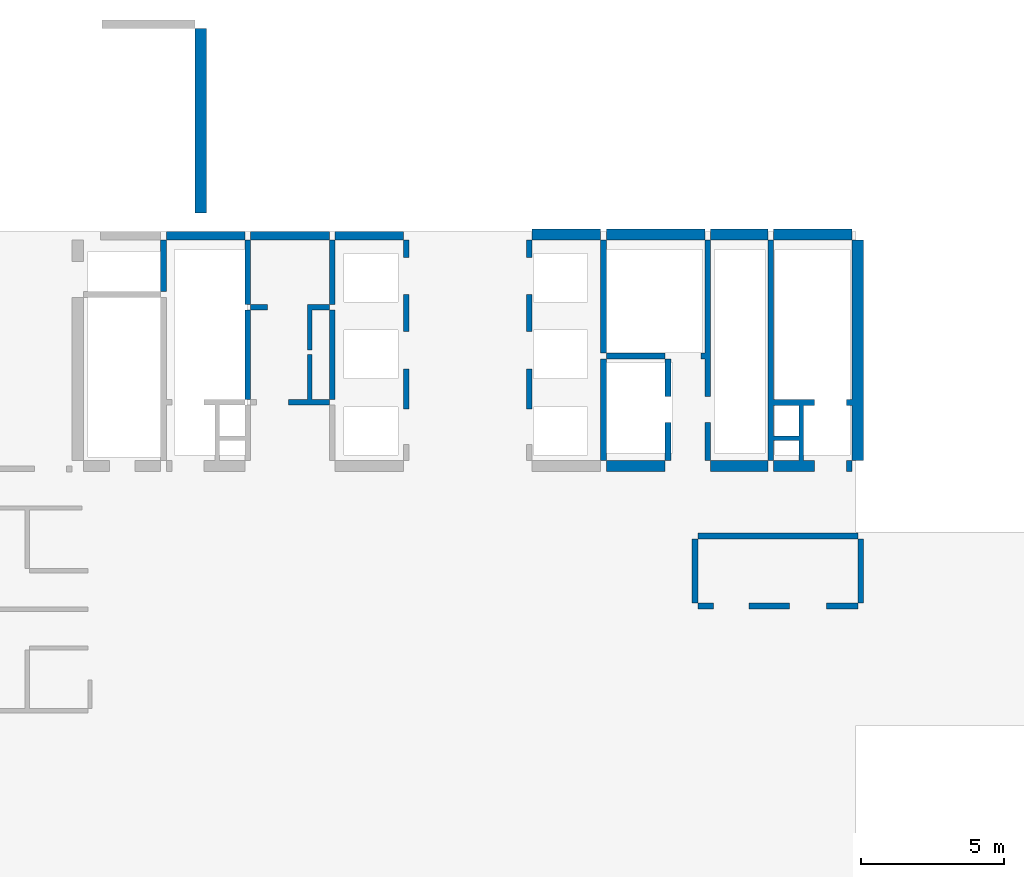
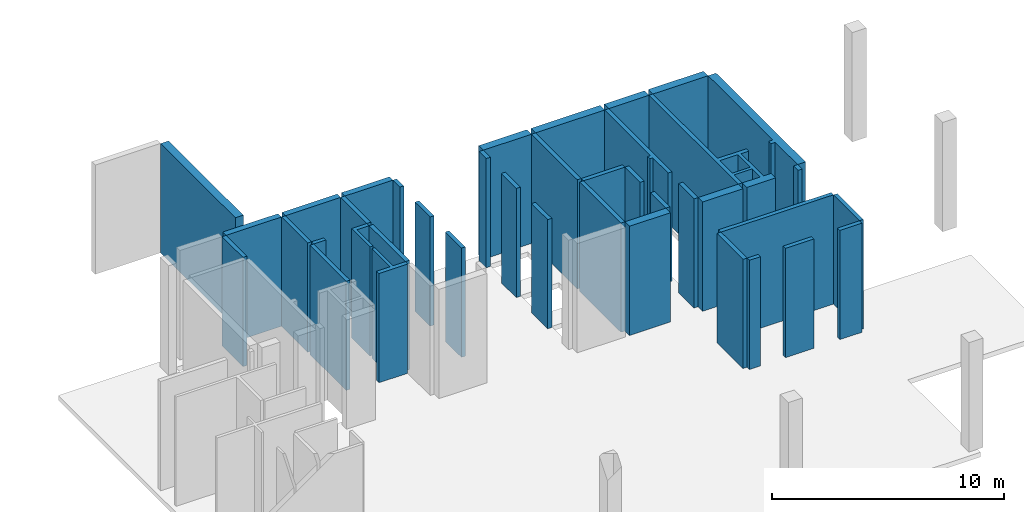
# One storey, part 2 of 2: 40 walls.
"""IFC4 building model written with IfcOpenShell, lengths in millimetres."""

from ifc_helpers import new_model, si_unit, origin, place, context, project, spatial, triangles, element, save


model = new_model("IFC4")

# Units and contexts
model_context = context("Model", 3, precision=0.001, world=origin())
ifc_project = project(units=[si_unit("LENGTHUNIT", "METRE", prefix="MILLI"), si_unit("AREAUNIT", "SQUARE_METRE"), si_unit("VOLUMEUNIT", "CUBIC_METRE")], contexts=[model_context])

# Site, building, storey
site_placement = place(None, origin())
site = spatial("IfcSite", under=ifc_project, at=site_placement, Name="Site", CompositionType="ELEMENT")
building_placement = place(site_placement, origin())
building = spatial("IfcBuilding", under=site, at=building_placement, Name="INNOCEAN", CompositionType="ELEMENT")
storey_placement = place(building_placement, origin())
storey = spatial("IfcBuildingStorey", under=building, at=storey_placement, Name="F01", CompositionType="ELEMENT", Elevation=0.0)

# Walls
wall_1_placement = place(storey_placement, origin())
element("IfcWall", 1, at=wall_1_placement, inside=storey, Name="F01_Walls_F01_014", context=model_context, shape_type="Tessellation", body=[
    triangles([(16226.2, 23222.2, 0.0), (16429.3, 23222.2, 0.0), (16429.3, 23222.2, 5750.0), (16226.2, 23222.2, 5750.0), (16226.2, 25025.8, 0.0), (16226.2, 25025.8, 5750.0), (16429.3, 25025.8, 0.0), (16429.3, 25025.8, 5750.0)], [[1, 2, 3], [1, 3, 4], [5, 1, 4], [5, 4, 6], [7, 5, 6], [7, 6, 8], [2, 7, 8], [2, 8, 3], [5, 2, 1], [5, 7, 2], [3, 6, 4], [8, 6, 3]], closed=True),
])
wall_2_placement = place(storey_placement, origin())
element("IfcWall", 2, at=wall_2_placement, inside=storey, Name="F01_Walls_F01_023", context=model_context, shape_type="Tessellation", body=[
    triangles([(22128.5, 19246.7, 0.0), (22128.5, 19449.9, 0.0), (22128.5, 19449.9, 5750.0), (22128.5, 19246.7, 5750.0), (20694.2, 19246.7, 0.0), (20694.2, 19246.7, 5750.0), (20694.2, 19449.9, 0.0), (20694.2, 19449.9, 5750.0), (21366.9, 19449.9, 0.0), (21366.9, 19449.9, 5750.0), (21366.9, 21024.9, 0.0), (21366.9, 21024.9, 5750.0), (21519.3, 21024.9, 0.0), (21519.3, 21024.9, 5750.0), (21519.3, 19449.9, 0.0), (21519.3, 19449.9, 5750.0)], [[1, 2, 3], [1, 3, 4], [5, 1, 4], [5, 4, 6], [7, 5, 6], [7, 6, 8], [9, 7, 8], [9, 8, 10], [11, 9, 10], [11, 10, 12], [13, 11, 12], [13, 12, 14], [15, 13, 14], [15, 14, 16], [2, 15, 16], [2, 16, 3], [15, 2, 1], [9, 15, 1], [5, 9, 1], [7, 9, 5], [11, 13, 15], [11, 15, 9], [3, 16, 4], [16, 10, 4], [10, 6, 4], [10, 8, 6], [14, 12, 16], [16, 12, 10]], closed=True),
])
wall_3_placement = place(storey_placement, origin())
element("IfcWall", 3, at=wall_3_placement, inside=storey, Name="F01_Walls_F01_024", context=model_context, shape_type="Tessellation", body=[
    triangles([(24730.0, 19120.0, 0.0), (24730.0, 19120.0, 5750.0), (24730.0, 20515.0, 5750.0), (24730.0, 20515.0, 0.0), (24730.6, 20515.0, 5750.0), (24730.6, 20515.0, 0.0), (24730.6, 20516.8, 0.0), (24730.6, 20516.8, 5750.0), (24921.0, 20516.8, 0.0), (24921.0, 20516.8, 5750.0), (24921.0, 19119.7, 0.0), (24921.0, 19119.7, 5750.0), (24730.6, 19119.7, 0.0), (24730.6, 19119.7, 5750.0), (24730.6, 19120.0, 0.0), (24730.6, 19120.0, 5750.0)], [[1, 2, 3], [4, 1, 3], [4, 3, 5], [6, 4, 5], [7, 6, 5], [7, 5, 8], [9, 7, 8], [9, 8, 10], [11, 9, 10], [11, 10, 12], [13, 11, 12], [13, 12, 14], [15, 13, 14], [15, 14, 16], [15, 16, 2], [1, 15, 2], [15, 11, 13], [6, 9, 11], [6, 11, 15], [4, 15, 1], [4, 6, 15], [7, 9, 6], [12, 16, 14], [10, 5, 12], [12, 5, 16], [16, 3, 2], [5, 3, 16], [10, 8, 5]], closed=True),
])
wall_4_placement = place(storey_placement, origin())
element("IfcWall", 4, at=wall_4_placement, inside=storey, Name="F01_Walls_F01_025", context=model_context, shape_type="Tessellation", body=[
    triangles([(19374.1, 22574.4, 0.0), (19374.1, 22574.4, 5750.0), (19374.1, 19449.9, 5750.0), (19374.1, 19449.9, 0.0), (19183.7, 19449.9, 0.0), (19183.7, 19449.9, 5750.0), (19183.7, 22574.4, 5750.0), (19183.7, 22574.4, 0.0)], [[1, 2, 3], [4, 1, 3], [5, 4, 3], [5, 3, 6], [5, 6, 7], [8, 5, 7], [1, 8, 7], [1, 7, 2], [1, 4, 5], [8, 1, 5], [3, 2, 6], [2, 7, 6]], closed=True),
])
wall_5_placement = place(storey_placement, origin())
element("IfcWall", 5, at=wall_5_placement, inside=storey, Name="F01_Walls_F01_026", context=model_context, shape_type="Tessellation", body=[
    triangles([(22331.6, 22574.4, 0.0), (22331.6, 22574.4, 5750.0), (22331.6, 19449.9, 5750.0), (22331.6, 19449.9, 0.0), (22128.5, 19449.9, 0.0), (22128.5, 19449.9, 5750.0), (22128.5, 22574.4, 5750.0), (22128.5, 22574.4, 0.0)], [[1, 2, 3], [4, 1, 3], [5, 4, 3], [5, 3, 6], [5, 6, 7], [8, 5, 7], [1, 8, 7], [1, 7, 2], [1, 4, 5], [8, 1, 5], [3, 2, 6], [2, 7, 6]], closed=True),
])
wall_6_placement = place(storey_placement, origin())
element("IfcWall", 6, at=wall_6_placement, inside=storey, Name="F01_Walls_F01_027", context=model_context, shape_type="Tessellation", body=[
    triangles([(21519.3, 22574.4, 0.0), (22128.5, 22574.4, 0.0), (22128.5, 22574.4, 5750.0), (21519.3, 22574.4, 5750.0), (21519.3, 21177.3, 0.0), (21519.3, 21177.3, 5750.0), (21366.9, 21177.3, 0.0), (21366.9, 21177.3, 5750.0), (21366.9, 22574.4, 0.0), (21366.9, 22574.4, 5750.0), (21366.9, 22765.0, 0.0), (21366.9, 22765.0, 5750.0), (22128.5, 22765.0, 0.0), (22128.5, 22765.0, 5750.0)], [[1, 2, 3], [1, 3, 4], [5, 1, 4], [5, 4, 6], [7, 5, 6], [7, 6, 8], [9, 7, 8], [9, 8, 10], [11, 9, 10], [11, 10, 12], [13, 11, 12], [13, 12, 14], [2, 13, 14], [2, 14, 3], [1, 13, 2], [9, 1, 5], [9, 5, 7], [11, 1, 9], [11, 13, 1], [14, 4, 3], [4, 10, 6], [6, 10, 8], [4, 12, 10], [14, 12, 4]], closed=True),
])
wall_7_placement = place(storey_placement, origin())
element("IfcWall", 7, at=wall_7_placement, inside=storey, Name="F01_Walls_F01_028", context=model_context, shape_type="Tessellation", body=[
    triangles([(19970.7, 22574.4, 0.0), (19970.7, 22765.0, 0.0), (19970.7, 22765.0, 5750.0), (19970.7, 22574.4, 5750.0), (19374.1, 22574.4, 0.0), (19374.1, 22574.4, 5750.0), (19374.1, 22765.0, 0.0), (19374.1, 22765.0, 5750.0)], [[1, 2, 3], [1, 3, 4], [5, 1, 4], [5, 4, 6], [7, 5, 6], [7, 6, 8], [2, 7, 8], [2, 8, 3], [7, 2, 1], [7, 1, 5], [3, 8, 4], [4, 8, 6]], closed=True),
])
wall_8_placement = place(storey_placement, origin())
element("IfcWall", 8, at=wall_8_placement, inside=storey, Name="F01_Walls_F01_029", context=model_context, shape_type="Tessellation", body=[
    triangles([(19374.1, 22765.0, 0.0), (19374.1, 25025.8, 0.0), (19374.1, 25025.8, 5750.0), (19374.1, 22765.0, 5750.0), (19183.7, 22765.0, 0.0), (19183.7, 22765.0, 5750.0), (19183.7, 25025.8, 0.0), (19183.7, 25025.8, 5750.0)], [[1, 2, 3], [1, 3, 4], [5, 1, 4], [5, 4, 6], [7, 5, 6], [7, 6, 8], [2, 7, 8], [2, 8, 3], [7, 2, 1], [7, 1, 5], [3, 8, 4], [4, 8, 6]], closed=True),
])
wall_9_placement = place(storey_placement, origin())
element("IfcWall", 9, at=wall_9_placement, inside=storey, Name="F01_Walls_F01_030", context=model_context, shape_type="Tessellation", body=[
    triangles([(22331.6, 22765.0, 0.0), (22331.6, 25025.8, 0.0), (22331.6, 25025.8, 5750.0), (22331.6, 22765.0, 5750.0), (22128.5, 22765.0, 0.0), (22128.5, 22765.0, 5750.0), (22128.5, 25025.8, 0.0), (22128.5, 25025.8, 5750.0)], [[1, 2, 3], [1, 3, 4], [5, 1, 4], [5, 4, 6], [7, 5, 6], [7, 6, 8], [2, 7, 8], [2, 8, 3], [7, 2, 1], [7, 1, 5], [3, 8, 4], [4, 8, 6]], closed=True),
])
wall_10_placement = place(storey_placement, origin())
element("IfcWall", 10, at=wall_10_placement, inside=storey, Name="F01_Walls_F01_031", context=model_context, shape_type="Tessellation", body=[
    triangles([(19183.7, 25025.8, 0.0), (19183.7, 25317.9, 0.0), (19183.7, 25317.9, 5750.0), (19183.7, 25025.8, 5750.0), (16429.3, 25025.8, 0.0), (16429.3, 25025.8, 5750.0), (16429.3, 25317.9, 0.0), (16429.3, 25317.9, 5750.0)], [[1, 2, 3], [1, 3, 4], [5, 1, 4], [5, 4, 6], [7, 5, 6], [7, 6, 8], [2, 7, 8], [2, 8, 3], [5, 2, 1], [7, 2, 5], [3, 6, 4], [3, 8, 6]], closed=True),
])
wall_11_placement = place(storey_placement, origin())
element("IfcWall", 11, at=wall_11_placement, inside=storey, Name="F01_Walls_F01_032", context=model_context, shape_type="Tessellation", body=[
    triangles([(22128.5, 25025.8, 0.0), (22128.5, 25317.9, 0.0), (22128.5, 25317.9, 5750.0), (22128.5, 25025.8, 5750.0), (19374.1, 25025.8, 0.0), (19374.1, 25025.8, 5750.0), (19374.1, 25317.9, 0.0), (19374.1, 25317.9, 5750.0)], [[1, 2, 3], [1, 3, 4], [5, 1, 4], [5, 4, 6], [7, 5, 6], [7, 6, 8], [2, 7, 8], [2, 8, 3], [5, 2, 1], [7, 2, 5], [3, 6, 4], [3, 8, 6]], closed=True),
])
wall_12_placement = place(storey_placement, origin())
element("IfcWall", 12, at=wall_12_placement, inside=storey, Name="F01_Walls_F01_033", context=model_context, shape_type="Tessellation", body=[
    triangles([(24730.6, 25317.9, 0.0), (22331.6, 25317.9, 0.0), (22331.6, 25317.9, 5750.0), (24730.6, 25317.9, 5750.0), (24730.6, 25025.8, 0.0), (24730.6, 25025.8, 5750.0), (22331.6, 25025.8, 0.0), (22331.6, 25025.8, 5750.0)], [[1, 2, 3], [1, 3, 4], [5, 1, 4], [5, 4, 6], [7, 5, 6], [7, 6, 8], [2, 7, 8], [2, 8, 3], [7, 1, 5], [2, 1, 7], [4, 8, 6], [4, 3, 8]], closed=True),
])
wall_13_placement = place(storey_placement, origin())
element("IfcWall", 13, at=wall_13_placement, inside=storey, Name="F01_Walls_F01_034", context=model_context, shape_type="Tessellation", body=[
    triangles([(17825.5, 25965.7, 0.0), (17825.5, 32417.9, 0.0), (17825.5, 32417.9, 5750.0), (17825.5, 25965.7, 5750.0), (17432.0, 25965.7, 5750.0), (17432.0, 25965.7, 0.0), (17432.0, 32417.9, 0.0), (17432.0, 32417.9, 5750.0)], [[1, 2, 3], [1, 3, 4], [1, 4, 5], [6, 1, 5], [7, 6, 5], [7, 5, 8], [7, 8, 3], [2, 7, 3], [7, 2, 1], [7, 1, 6], [3, 8, 4], [4, 8, 5]], closed=True),
])
wall_14_placement = place(storey_placement, origin())
element("IfcWall", 14, at=wall_14_placement, inside=storey, Name="F01_Walls_F01_035", context=model_context, shape_type="Tessellation", body=[
    triangles([(35570.7, 12121.3, 0.0), (35570.7, 12324.5, 0.0), (35570.7, 12324.5, 5750.0), (35570.7, 12121.3, 5750.0), (35024.8, 12121.3, 0.0), (35024.8, 12121.3, 5750.0), (35024.8, 12324.5, 0.0), (35024.8, 12324.5, 5750.0)], [[1, 2, 3], [1, 3, 4], [5, 1, 4], [5, 4, 6], [7, 5, 6], [7, 6, 8], [2, 7, 8], [2, 8, 3], [7, 2, 1], [7, 1, 5], [3, 8, 4], [4, 8, 6]], closed=True),
])
wall_15_placement = place(storey_placement, origin())
element("IfcWall", 15, at=wall_15_placement, inside=storey, Name="F01_Walls_F01_036", context=model_context, shape_type="Tessellation", body=[
    triangles([(35024.8, 14572.6, 0.0), (34821.8, 14572.6, 0.0), (34821.8, 14572.6, 5750.0), (35024.8, 14572.6, 5750.0), (35024.8, 12324.5, 0.0), (35024.8, 12324.5, 5750.0), (34821.8, 12324.5, 0.0), (34821.8, 12324.5, 5750.0)], [[1, 2, 3], [1, 3, 4], [5, 1, 4], [5, 4, 6], [7, 5, 6], [7, 6, 8], [2, 7, 8], [2, 8, 3], [2, 1, 5], [2, 5, 7], [4, 3, 6], [6, 3, 8]], closed=True),
])
wall_16_placement = place(storey_placement, origin())
element("IfcWall", 16, at=wall_16_placement, inside=storey, Name="F01_Walls_F01_038", context=model_context, shape_type="Tessellation", body=[
    triangles([(33869.8, 16922.4, 0.0), (33869.8, 17316.1, 0.0), (33869.8, 17316.1, 5750.0), (33869.8, 16922.4, 5750.0), (31826.2, 16922.4, 0.0), (31826.2, 16922.4, 5750.0), (31826.2, 17316.1, 0.0), (31826.2, 17316.1, 5750.0)], [[1, 2, 3], [1, 3, 4], [5, 1, 4], [5, 4, 6], [7, 5, 6], [7, 6, 8], [2, 7, 8], [2, 8, 3], [7, 2, 1], [7, 1, 5], [3, 8, 4], [4, 8, 6]], closed=True),
])
wall_17_placement = place(storey_placement, origin())
element("IfcWall", 17, at=wall_17_placement, inside=storey, Name="F01_Walls_F01_041", context=model_context, shape_type="Tessellation", body=[
    triangles([(34072.9, 18649.7, 0.0), (34072.9, 18649.7, 5750.0), (34072.9, 17316.1, 5750.0), (34072.9, 17316.1, 0.0), (33869.8, 17316.1, 0.0), (33869.8, 17316.1, 5750.0), (33869.8, 18649.7, 5750.0), (33869.8, 18649.7, 0.0)], [[1, 2, 3], [4, 1, 3], [5, 4, 3], [5, 3, 6], [5, 6, 7], [8, 5, 7], [1, 8, 7], [1, 7, 2], [8, 1, 4], [8, 4, 5], [2, 7, 3], [3, 7, 6]], closed=True),
])
wall_18_placement = place(storey_placement, origin())
element("IfcWall", 18, at=wall_18_placement, inside=storey, Name="F01_Walls_F01_042", context=model_context, shape_type="Tessellation", body=[
    triangles([(35469.1, 18649.7, 0.0), (35469.1, 18649.7, 5750.0), (35469.1, 17316.1, 5750.0), (35469.1, 17316.1, 0.0), (35266.0, 17316.1, 0.0), (35266.0, 17316.1, 5750.0), (35266.0, 18649.7, 5750.0), (35266.0, 18649.7, 0.0)], [[1, 2, 3], [4, 1, 3], [5, 4, 3], [5, 3, 6], [5, 6, 7], [8, 5, 7], [1, 8, 7], [1, 7, 2], [8, 1, 4], [8, 4, 5], [2, 7, 3], [3, 7, 6]], closed=True),
])
wall_19_placement = place(storey_placement, origin())
element("IfcWall", 19, at=wall_19_placement, inside=storey, Name="F01_Walls_F01_043", context=model_context, shape_type="Tessellation", body=[
    triangles([(31826.2, 17316.1, 0.0), (31826.2, 20872.5, 0.0), (31826.2, 20872.5, 5750.0), (31826.2, 17316.1, 5750.0), (31623.1, 17316.1, 0.0), (31623.1, 17316.1, 5750.0), (31623.1, 20872.5, 0.0), (31623.1, 20872.5, 5750.0)], [[1, 2, 3], [1, 3, 4], [5, 1, 4], [5, 4, 6], [7, 5, 6], [7, 6, 8], [2, 7, 8], [2, 8, 3], [7, 2, 1], [7, 1, 5], [3, 8, 4], [4, 8, 6]], closed=True),
])
wall_20_placement = place(storey_placement, origin())
element("IfcWall", 20, at=wall_20_placement, inside=storey, Name="F01_Walls_F01_044", context=model_context, shape_type="Tessellation", body=[
    triangles([(29224.0, 19120.0, 0.0), (29225.0, 19120.0, 0.0), (29225.0, 19120.0, 5750.0), (29224.0, 19120.0, 5750.0), (29224.0, 19119.7, 0.0), (29224.0, 19119.7, 5750.0), (29020.9, 19119.7, 0.0), (29020.9, 19119.7, 5750.0), (29020.9, 19120.0, 0.0), (29020.9, 19120.0, 5750.0), (29020.0, 19120.0, 0.0), (29020.0, 19120.0, 5750.0), (29020.0, 20515.0, 5750.0), (29020.0, 20515.0, 0.0), (29020.9, 20515.0, 0.0), (29020.9, 20515.0, 5750.0), (29020.9, 20516.8, 0.0), (29020.9, 20516.8, 5750.0), (29224.0, 20516.8, 0.0), (29224.0, 20516.8, 5750.0), (29224.0, 20515.0, 0.0), (29224.0, 20515.0, 5750.0), (29225.0, 20515.0, 0.0), (29225.0, 20515.0, 5750.0)], [[1, 2, 3], [1, 3, 4], [5, 1, 4], [5, 4, 6], [7, 5, 6], [7, 6, 8], [9, 7, 8], [9, 8, 10], [11, 9, 10], [11, 10, 12], [11, 12, 13], [14, 11, 13], [15, 14, 13], [15, 13, 16], [17, 15, 16], [17, 16, 18], [19, 17, 18], [19, 18, 20], [21, 19, 20], [21, 20, 22], [23, 21, 22], [23, 22, 24], [23, 24, 3], [2, 23, 3], [9, 1, 5], [9, 5, 7], [21, 2, 1], [21, 23, 2], [21, 1, 9], [15, 21, 9], [14, 9, 11], [14, 15, 9], [17, 19, 21], [17, 21, 15], [4, 10, 6], [6, 10, 8], [3, 22, 4], [24, 22, 3], [4, 22, 10], [22, 16, 10], [10, 13, 12], [16, 13, 10], [20, 18, 22], [22, 18, 16]], closed=True),
])
wall_21_placement = place(storey_placement, origin())
element("IfcWall", 21, at=wall_21_placement, inside=storey, Name="F01_Walls_F01_045", context=model_context, shape_type="Tessellation", body=[
    triangles([(34072.9, 19551.5, 0.0), (34072.9, 20872.5, 0.0), (34072.9, 20872.5, 5750.0), (34072.9, 19551.5, 5750.0), (33869.8, 19551.5, 0.0), (33869.8, 19551.5, 5750.0), (33869.8, 20872.5, 0.0), (33869.8, 20872.5, 5750.0)], [[1, 2, 3], [1, 3, 4], [5, 1, 4], [5, 4, 6], [7, 5, 6], [7, 6, 8], [2, 7, 8], [2, 8, 3], [7, 2, 1], [7, 1, 5], [3, 8, 4], [4, 8, 6]], closed=True),
])
wall_22_placement = place(storey_placement, origin())
element("IfcWall", 22, at=wall_22_placement, inside=storey, Name="F01_Walls_F01_046", context=model_context, shape_type="Tessellation", body=[
    triangles([(35469.1, 21075.7, 0.0), (35469.1, 25025.8, 0.0), (35469.1, 25025.8, 5750.0), (35469.1, 21075.7, 5750.0), (35469.1, 20872.5, 0.0), (35469.1, 20872.5, 5750.0), (35469.1, 19551.5, 0.0), (35469.1, 19551.5, 5750.0), (35266.0, 19551.5, 0.0), (35266.0, 19551.5, 5750.0), (35266.0, 20872.5, 0.0), (35266.0, 20872.5, 5750.0), (35126.4, 20872.5, 0.0), (35126.4, 20872.5, 5750.0), (35126.4, 21075.7, 0.0), (35126.4, 21075.7, 5750.0), (35266.0, 21075.7, 0.0), (35266.0, 21075.7, 5750.0), (35266.0, 25025.8, 0.0), (35266.0, 25025.8, 5750.0)], [[1, 2, 3], [1, 3, 4], [5, 1, 4], [5, 4, 6], [7, 5, 6], [7, 6, 8], [9, 7, 8], [9, 8, 10], [11, 9, 10], [11, 10, 12], [13, 11, 12], [13, 12, 14], [15, 13, 14], [15, 14, 16], [17, 15, 16], [17, 16, 18], [19, 17, 18], [19, 18, 20], [2, 19, 20], [2, 20, 3], [11, 5, 7], [11, 7, 9], [1, 5, 11], [17, 1, 11], [15, 11, 13], [15, 17, 11], [19, 2, 1], [19, 1, 17], [6, 12, 8], [8, 12, 10], [6, 4, 12], [4, 18, 12], [12, 16, 14], [18, 16, 12], [3, 20, 4], [4, 20, 18]], closed=True),
])
wall_23_placement = place(storey_placement, origin())
element("IfcWall", 23, at=wall_23_placement, inside=storey, Name="F01_Walls_F01_047", context=model_context, shape_type="Tessellation", body=[
    triangles([(33869.8, 20872.5, 0.0), (33869.8, 21075.7, 0.0), (33869.8, 21075.7, 5750.0), (33869.8, 20872.5, 5750.0), (31826.2, 20872.5, 0.0), (31826.2, 20872.5, 5750.0), (31826.2, 21075.7, 0.0), (31826.2, 21075.7, 5750.0)], [[1, 2, 3], [1, 3, 4], [5, 1, 4], [5, 4, 6], [7, 5, 6], [7, 6, 8], [2, 7, 8], [2, 8, 3], [7, 2, 1], [7, 1, 5], [3, 8, 4], [4, 8, 6]], closed=True),
])
wall_24_placement = place(storey_placement, origin())
element("IfcWall", 24, at=wall_24_placement, inside=storey, Name="F01_Walls_F01_048", context=model_context, shape_type="Tessellation", body=[
    triangles([(24920.0, 21825.1, 0.0), (24921.0, 21825.1, 0.0), (24921.0, 21825.1, 5750.0), (24920.0, 21825.1, 5750.0), (24920.0, 21825.0, 5750.0), (24920.0, 21825.0, 0.0), (24730.0, 21825.0, 5750.0), (24730.0, 21825.0, 0.0), (24730.0, 23120.0, 0.0), (24730.0, 23120.0, 5750.0), (24730.6, 23120.0, 5750.0), (24730.6, 23120.0, 0.0), (24730.6, 23120.6, 5750.0), (24730.6, 23120.6, 0.0), (24921.0, 23120.6, 0.0), (24921.0, 23120.6, 5750.0)], [[1, 2, 3], [1, 3, 4], [1, 4, 5], [6, 1, 5], [6, 5, 7], [8, 6, 7], [9, 8, 7], [9, 7, 10], [9, 10, 11], [12, 9, 11], [12, 11, 13], [14, 12, 13], [15, 14, 13], [15, 13, 16], [2, 15, 16], [2, 16, 3], [8, 1, 6], [15, 2, 1], [12, 15, 1], [12, 1, 8], [9, 12, 8], [14, 15, 12], [4, 7, 5], [3, 16, 4], [16, 11, 4], [4, 11, 7], [11, 10, 7], [16, 13, 11]], closed=True),
])
wall_25_placement = place(storey_placement, origin())
element("IfcWall", 25, at=wall_25_placement, inside=storey, Name="F01_Walls_F01_049", context=model_context, shape_type="Tessellation", body=[
    triangles([(29225.0, 21825.0, 0.0), (29225.0, 23120.0, 0.0), (29225.0, 23120.0, 5750.0), (29225.0, 21825.0, 5750.0), (29020.0, 21825.0, 0.0), (29020.0, 21825.0, 5750.0), (29020.0, 23120.0, 0.0), (29020.0, 23120.0, 5750.0), (29020.9, 23120.0, 0.0), (29020.9, 23120.0, 5750.0), (29020.9, 23120.6, 5750.0), (29020.9, 23120.6, 0.0), (29224.0, 23120.6, 0.0), (29224.0, 23120.6, 5750.0), (29224.0, 23120.0, 5750.0), (29224.0, 23120.0, 0.0)], [[1, 2, 3], [1, 3, 4], [5, 1, 4], [5, 4, 6], [7, 5, 6], [7, 6, 8], [9, 7, 8], [9, 8, 10], [9, 10, 11], [12, 9, 11], [13, 12, 11], [13, 11, 14], [13, 14, 15], [16, 13, 15], [2, 16, 15], [2, 15, 3], [16, 2, 1], [16, 1, 5], [9, 16, 5], [12, 13, 16], [12, 16, 9], [7, 9, 5], [3, 15, 4], [4, 15, 6], [15, 10, 6], [14, 11, 15], [15, 11, 10], [10, 8, 6]], closed=True),
])
wall_26_placement = place(storey_placement, origin())
element("IfcWall", 26, at=wall_26_placement, inside=storey, Name="F01_Walls_F01_050", context=model_context, shape_type="Tessellation", body=[
    triangles([(31826.2, 21075.7, 0.0), (31826.2, 25025.8, 0.0), (31826.2, 25025.8, 5750.0), (31826.2, 21075.7, 5750.0), (31623.1, 21075.7, 0.0), (31623.1, 21075.7, 5750.0), (31623.1, 25025.8, 0.0), (31623.1, 25025.8, 5750.0)], [[1, 2, 3], [1, 3, 4], [5, 1, 4], [5, 4, 6], [7, 5, 6], [7, 6, 8], [2, 7, 8], [2, 8, 3], [2, 1, 5], [7, 2, 5], [4, 3, 6], [3, 8, 6]], closed=True),
])
wall_27_placement = place(storey_placement, origin())
element("IfcWall", 27, at=wall_27_placement, inside=storey, Name="F01_Walls_F01_051", context=model_context, shape_type="Tessellation", body=[
    triangles([(24921.0, 24416.1, 0.0), (24921.0, 25025.8, 0.0), (24921.0, 25025.8, 5750.0), (24921.0, 24416.1, 5750.0), (24730.6, 24416.1, 0.0), (24730.6, 24416.1, 5750.0), (24730.6, 25025.8, 0.0), (24730.6, 25025.8, 5750.0)], [[1, 2, 3], [1, 3, 4], [5, 1, 4], [5, 4, 6], [7, 5, 6], [7, 6, 8], [2, 7, 8], [2, 8, 3], [7, 2, 1], [7, 1, 5], [3, 8, 4], [4, 8, 6]], closed=True),
])
wall_28_placement = place(storey_placement, origin())
element("IfcWall", 28, at=wall_28_placement, inside=storey, Name="F01_Walls_F01_052", context=model_context, shape_type="Tessellation", body=[
    triangles([(29020.9, 25025.8, 0.0), (29020.9, 24416.1, 0.0), (29020.9, 24416.1, 5750.0), (29020.9, 25025.8, 5750.0), (29224.0, 25025.8, 0.0), (29224.0, 25025.8, 5750.0), (29224.0, 24416.1, 0.0), (29224.0, 24416.1, 5750.0)], [[1, 2, 3], [1, 3, 4], [5, 1, 4], [5, 4, 6], [7, 5, 6], [7, 6, 8], [2, 7, 8], [2, 8, 3], [1, 5, 7], [1, 7, 2], [6, 4, 8], [8, 4, 3]], closed=True),
])
wall_29_placement = place(storey_placement, origin())
element("IfcWall", 29, at=wall_29_placement, inside=storey, Name="F01_Walls_F01_053", context=model_context, shape_type="Tessellation", body=[
    triangles([(31623.1, 25025.8, 0.0), (31623.1, 25419.5, 0.0), (31623.1, 25419.5, 5750.0), (31623.1, 25025.8, 5750.0), (29224.0, 25025.8, 0.0), (29224.0, 25025.8, 5750.0), (29224.0, 25419.5, 0.0), (29224.0, 25419.5, 5750.0)], [[1, 2, 3], [1, 3, 4], [5, 1, 4], [5, 4, 6], [7, 5, 6], [7, 6, 8], [2, 7, 8], [2, 8, 3], [7, 2, 1], [7, 1, 5], [3, 8, 4], [4, 8, 6]], closed=True),
])
wall_30_placement = place(storey_placement, origin())
element("IfcWall", 30, at=wall_30_placement, inside=storey, Name="F01_Walls_F01_054", context=model_context, shape_type="Tessellation", body=[
    triangles([(35266.0, 25025.8, 0.0), (35266.0, 25419.5, 0.0), (35266.0, 25419.5, 5750.0), (35266.0, 25025.8, 5750.0), (31826.2, 25025.8, 0.0), (31826.2, 25025.8, 5750.0), (31826.2, 25419.5, 0.0), (31826.2, 25419.5, 5750.0)], [[1, 2, 3], [1, 3, 4], [5, 1, 4], [5, 4, 6], [7, 5, 6], [7, 6, 8], [2, 7, 8], [2, 8, 3], [7, 2, 1], [7, 1, 5], [3, 8, 4], [4, 8, 6]], closed=True),
])
wall_31_placement = place(storey_placement, origin())
element("IfcWall", 31, at=wall_31_placement, inside=storey, Name="F01_Walls_F01_055", context=model_context, shape_type="Tessellation", body=[
    triangles([(36815.0, 12325.0, 0.0), (36815.0, 12324.5, 0.0), (36815.0, 12324.5, 5750.0), (36815.0, 12325.0, 5750.0), (38225.0, 12325.0, 5750.0), (38225.0, 12325.0, 0.0), (38225.0, 12120.0, 0.0), (38225.0, 12120.0, 5750.0), (36815.0, 12120.0, 5750.0), (36815.0, 12120.0, 0.0), (36815.0, 12121.3, 0.0), (36815.0, 12121.3, 5750.0), (36814.6, 12121.3, 0.0), (36814.6, 12121.3, 5750.0), (36814.6, 12324.5, 0.0), (36814.6, 12324.5, 5750.0)], [[1, 2, 3], [1, 3, 4], [1, 4, 5], [6, 1, 5], [7, 6, 5], [7, 5, 8], [7, 8, 9], [10, 7, 9], [11, 10, 9], [11, 9, 12], [13, 11, 12], [13, 12, 14], [15, 13, 14], [15, 14, 16], [2, 15, 16], [2, 16, 3], [11, 6, 7], [11, 7, 10], [2, 6, 11], [15, 11, 13], [15, 2, 11], [1, 6, 2], [5, 12, 8], [8, 12, 9], [5, 3, 12], [12, 16, 14], [3, 16, 12], [5, 4, 3]], closed=True),
])
wall_32_placement = place(storey_placement, origin())
element("IfcWall", 32, at=wall_32_placement, inside=storey, Name="F01_Walls_F01_056", context=model_context, shape_type="Tessellation", body=[
    triangles([(40622.6, 12324.5, 0.0), (39518.2, 12324.5, 0.0), (39518.2, 12324.5, 5750.0), (40622.6, 12324.5, 5750.0), (40622.6, 12121.3, 0.0), (40622.6, 12121.3, 5750.0), (39518.2, 12121.3, 0.0), (39518.2, 12121.3, 5750.0)], [[1, 2, 3], [1, 3, 4], [5, 1, 4], [5, 4, 6], [7, 5, 6], [7, 6, 8], [2, 7, 8], [2, 8, 3], [2, 1, 5], [2, 5, 7], [4, 3, 6], [6, 3, 8]], closed=True),
])
wall_33_placement = place(storey_placement, origin())
element("IfcWall", 33, at=wall_33_placement, inside=storey, Name="F01_Walls_F01_057", context=model_context, shape_type="Tessellation", body=[
    triangles([(40622.6, 12324.5, 0.0), (40813.0, 12324.5, 0.0), (40813.0, 12324.5, 5750.0), (40622.6, 12324.5, 5750.0), (40622.6, 14572.6, 0.0), (40622.6, 14572.6, 5750.0), (40813.0, 14572.6, 0.0), (40813.0, 14572.6, 5750.0)], [[1, 2, 3], [1, 3, 4], [5, 1, 4], [5, 4, 6], [7, 5, 6], [7, 6, 8], [2, 7, 8], [2, 8, 3], [7, 2, 1], [5, 7, 1], [3, 8, 4], [8, 6, 4]], closed=True),
])
wall_34_placement = place(storey_placement, origin())
element("IfcWall", 34, at=wall_34_placement, inside=storey, Name="F01_Walls_F01_058", context=model_context, shape_type="Tessellation", body=[
    triangles([(40622.6, 14775.8, 0.0), (35024.8, 14775.8, 0.0), (35024.8, 14775.8, 5750.0), (40622.6, 14775.8, 5750.0), (40622.6, 14572.6, 0.0), (40622.6, 14572.6, 5750.0), (35024.8, 14572.6, 0.0), (35024.8, 14572.6, 5750.0)], [[1, 2, 3], [1, 3, 4], [5, 1, 4], [5, 4, 6], [7, 5, 6], [7, 6, 8], [2, 7, 8], [2, 8, 3], [7, 1, 5], [2, 1, 7], [4, 8, 6], [4, 3, 8]], closed=True),
])
wall_35_placement = place(storey_placement, origin())
element("IfcWall", 35, at=wall_35_placement, inside=storey, Name="F01_Walls_F01_059", context=model_context, shape_type="Tessellation", body=[
    triangles([(37474.6, 16922.4, 0.0), (37474.6, 17316.1, 0.0), (37474.6, 17316.1, 5750.0), (37474.6, 16922.4, 5750.0), (35469.1, 16922.4, 0.0), (35469.1, 16922.4, 5750.0), (35469.1, 17316.1, 0.0), (35469.1, 17316.1, 5750.0)], [[1, 2, 3], [1, 3, 4], [5, 1, 4], [5, 4, 6], [7, 5, 6], [7, 6, 8], [2, 7, 8], [2, 8, 3], [7, 2, 1], [7, 1, 5], [3, 8, 4], [4, 8, 6]], closed=True),
])
wall_36_placement = place(storey_placement, origin())
element("IfcWall", 36, at=wall_36_placement, inside=storey, Name="F01_Walls_F01_060", context=model_context, shape_type="Tessellation", body=[
    triangles([(37474.6, 19449.9, 0.0), (37474.6, 17316.1, 0.0), (37474.6, 17316.1, 5750.0), (37474.6, 19449.9, 5750.0), (37665.0, 17316.1, 0.0), (37665.0, 17316.1, 5750.0), (37665.0, 16922.4, 0.0), (37665.0, 16922.4, 5750.0), (39099.4, 16922.4, 0.0), (39099.4, 16922.4, 5750.0), (39099.4, 17316.1, 0.0), (39099.4, 17316.1, 5750.0), (38720.0, 17316.1, 0.0), (38720.0, 17316.1, 5750.0), (38720.0, 19245.0, 0.0), (38720.0, 19245.0, 5750.0), (39100.0, 19245.0, 0.0), (39100.0, 19245.0, 5750.0), (39100.0, 19450.0, 0.0), (39100.0, 19450.0, 5750.0), (37665.0, 19450.0, 0.0), (37665.0, 19450.0, 5750.0), (37665.0, 25025.8, 0.0), (37665.0, 25025.8, 5750.0), (37474.6, 25025.8, 0.0), (37474.6, 25025.8, 5750.0), (37665.0, 18014.7, 0.0), (37665.0, 18014.7, 5750.0), (38565.0, 18014.7, 0.0), (38565.0, 18014.7, 5750.0), (38565.0, 17316.1, 0.0), (38565.0, 17316.1, 5750.0), (37665.0, 19245.0, 0.0), (38565.0, 19245.0, 0.0), (38565.0, 19245.0, 5750.0), (37665.0, 19245.0, 5750.0), (38565.0, 18167.1, 0.0), (38565.0, 18167.1, 5750.0), (37665.0, 18167.1, 0.0), (37665.0, 18167.1, 5750.0)], [[1, 2, 3], [1, 3, 4], [2, 5, 6], [2, 6, 3], [5, 7, 8], [5, 8, 6], [7, 9, 10], [7, 10, 8], [9, 11, 12], [9, 12, 10], [13, 14, 12], [11, 13, 12], [13, 15, 16], [13, 16, 14], [15, 17, 18], [15, 18, 16], [17, 19, 20], [17, 20, 18], [19, 21, 22], [19, 22, 20], [21, 23, 24], [21, 24, 22], [23, 25, 26], [23, 26, 24], [25, 1, 4], [25, 4, 26], [5, 27, 28], [5, 28, 6], [27, 29, 30], [27, 30, 28], [29, 31, 32], [29, 32, 30], [31, 5, 6], [31, 6, 32], [33, 34, 35], [33, 35, 36], [34, 37, 38], [34, 38, 35], [37, 39, 40], [37, 40, 38], [39, 33, 36], [39, 36, 40], [13, 11, 9], [31, 13, 9], [7, 31, 9], [29, 13, 31], [5, 31, 7], [27, 5, 2], [39, 29, 27], [39, 37, 29], [39, 27, 2], [15, 19, 17], [34, 15, 37], [34, 19, 15], [21, 34, 33], [21, 19, 34], [1, 33, 39], [1, 21, 33], [1, 39, 2], [25, 23, 21], [25, 21, 1], [15, 13, 29], [15, 29, 37], [12, 14, 10], [14, 32, 10], [32, 8, 10], [14, 30, 32], [32, 6, 8], [6, 28, 3], [30, 40, 28], [38, 40, 30], [28, 40, 3], [20, 16, 18], [16, 35, 38], [20, 35, 16], [35, 22, 36], [20, 22, 35], [36, 4, 40], [22, 4, 36], [40, 4, 3], [24, 26, 22], [22, 26, 4], [14, 16, 30], [30, 16, 38]], closed=True),
])
wall_37_placement = place(storey_placement, origin())
element("IfcWall", 37, at=wall_37_placement, inside=storey, Name="F01_Walls_F01_061", context=model_context, shape_type="Tessellation", body=[
    triangles([(40419.5, 16922.4, 0.0), (40419.5, 17316.1, 0.0), (40419.5, 17316.1, 5750.0), (40419.5, 16922.4, 5750.0), (40216.4, 16922.4, 0.0), (40216.4, 16922.4, 5750.0), (40216.4, 17316.1, 0.0), (40216.4, 17316.1, 5750.0)], [[1, 2, 3], [1, 3, 4], [5, 1, 4], [5, 4, 6], [7, 5, 6], [7, 6, 8], [2, 7, 8], [2, 8, 3], [7, 2, 1], [7, 1, 5], [3, 8, 4], [4, 8, 6]], closed=True),
])
wall_38_placement = place(storey_placement, origin())
element("IfcWall", 38, at=wall_38_placement, inside=storey, Name="F01_Walls_F01_062", context=model_context, shape_type="Tessellation", body=[
    triangles([(40215.0, 19450.0, 0.0), (40215.0, 19245.0, 0.0), (40215.0, 19245.0, 5750.0), (40215.0, 19450.0, 5750.0), (40419.5, 19450.0, 0.0), (40419.5, 19450.0, 5750.0), (40419.5, 25025.8, 0.0), (40419.5, 25025.8, 5750.0), (40813.0, 25025.8, 5750.0), (40813.0, 25025.8, 0.0), (40813.0, 19449.9, 5750.0), (40813.0, 19449.9, 0.0), (40813.0, 17316.1, 0.0), (40813.0, 17316.1, 5750.0), (40419.5, 17316.1, 5750.0), (40419.5, 17316.1, 0.0), (40419.5, 19245.0, 0.0), (40419.5, 19245.0, 5750.0)], [[1, 2, 3], [1, 3, 4], [5, 1, 4], [5, 4, 6], [7, 5, 6], [7, 6, 8], [7, 8, 9], [10, 7, 9], [10, 9, 11], [12, 10, 11], [13, 12, 11], [13, 11, 14], [13, 14, 15], [16, 13, 15], [17, 16, 15], [17, 15, 18], [2, 17, 18], [2, 18, 3], [17, 12, 13], [17, 13, 16], [5, 12, 17], [1, 17, 2], [1, 5, 17], [10, 12, 5], [7, 10, 5], [11, 18, 14], [14, 18, 15], [11, 6, 18], [18, 4, 3], [6, 4, 18], [11, 9, 6], [9, 8, 6]], closed=True),
])
wall_39_placement = place(storey_placement, origin())
element("IfcWall", 39, at=wall_39_placement, inside=storey, Name="F01_Walls_F01_063", context=model_context, shape_type="Tessellation", body=[
    triangles([(37474.6, 25025.8, 0.0), (37474.6, 25419.5, 0.0), (37474.6, 25419.5, 5750.0), (37474.6, 25025.8, 5750.0), (35469.1, 25025.8, 0.0), (35469.1, 25025.8, 5750.0), (35469.1, 25419.5, 0.0), (35469.1, 25419.5, 5750.0)], [[1, 2, 3], [1, 3, 4], [5, 1, 4], [5, 4, 6], [7, 5, 6], [7, 6, 8], [2, 7, 8], [2, 8, 3], [7, 2, 1], [7, 1, 5], [3, 8, 4], [4, 8, 6]], closed=True),
])
wall_40_placement = place(storey_placement, origin())
element("IfcWall", 40, at=wall_40_placement, inside=storey, Name="F01_Walls_F01_064", context=model_context, shape_type="Tessellation", body=[
    triangles([(40419.5, 25025.8, 0.0), (40419.5, 25419.5, 0.0), (40419.5, 25419.5, 5750.0), (40419.5, 25025.8, 5750.0), (37665.0, 25025.8, 0.0), (37665.0, 25025.8, 5750.0), (37665.0, 25419.5, 0.0), (37665.0, 25419.5, 5750.0)], [[1, 2, 3], [1, 3, 4], [5, 1, 4], [5, 4, 6], [7, 5, 6], [7, 6, 8], [2, 7, 8], [2, 8, 3], [7, 2, 1], [7, 1, 5], [3, 8, 4], [4, 8, 6]], closed=True),
])

save(model, "model.ifc")
